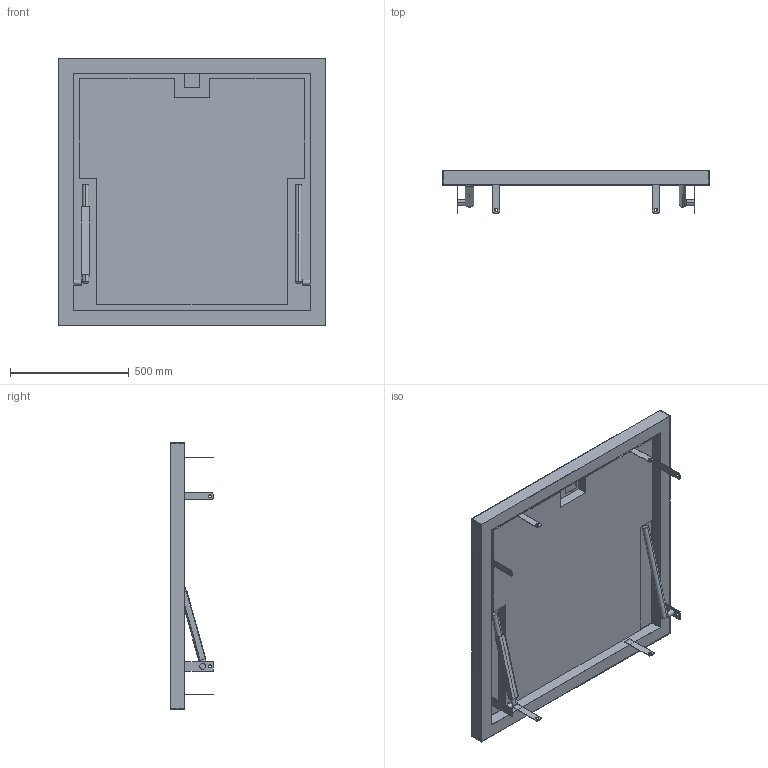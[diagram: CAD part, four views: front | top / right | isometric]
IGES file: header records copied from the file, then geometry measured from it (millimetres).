
Start section:  PTC IGES file: 52407172.igs
Global section: file name: 52407172.igs; native system: Creo Parametric by PTC Inc.; preprocessor: 2022162; author: wep; organization: Unknown; date: 20250714.133621; units: millimetre
Bounding box: 1120 x 180.01 x 1120 mm (x, y, z)
Surface area: 4467055.2 mm2 (no closed solid volume)
Topology: 0 solids, 0 shells, 738 faces, 4002 edges, 4002 vertices
Faces by surface type: bspline 427, extrusion 275, revolution 36
